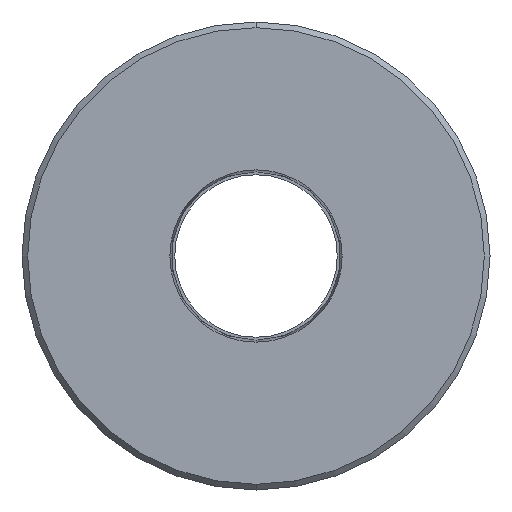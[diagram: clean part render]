
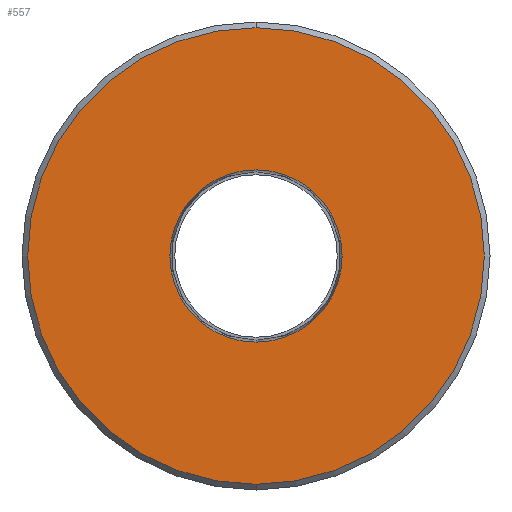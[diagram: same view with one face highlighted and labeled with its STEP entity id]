
A CAD part, front view. The second image highlights one B-rep face of the part: STEP entity #557.
In plain terms, the highlighted planar face has unit normal (0, -1, 0).
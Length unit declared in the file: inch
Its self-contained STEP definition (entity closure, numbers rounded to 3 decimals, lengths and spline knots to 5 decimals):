
#39 = CARTESIAN_POINT ( 'NONE',  ( 0., 0., -0.91114 ) ) ;
#46 = CARTESIAN_POINT ( 'NONE',  ( 0., 0., -2.415 ) ) ;
#59 = CARTESIAN_POINT ( 'NONE',  ( 0., 0., 0. ) ) ;
#73 = DIRECTION ( 'NONE',  ( 0., -1., 0. ) ) ;
#113 = CARTESIAN_POINT ( 'NONE',  ( 0., 0., 2.415 ) ) ;
#131 = CARTESIAN_POINT ( 'NONE',  ( 0., 0., 0. ) ) ;
#137 = DIRECTION ( 'NONE',  ( 0., 0., 1. ) ) ;
#158 = CIRCLE ( 'NONE', #421, 2.415 ) ;
#190 = VERTEX_POINT ( 'NONE', #767 ) ;
#203 = CIRCLE ( 'NONE', #467, 0.91114 ) ;
#235 = CARTESIAN_POINT ( 'NONE',  ( 0., 0., 0. ) ) ;
#236 = VERTEX_POINT ( 'NONE', #39 ) ;
#241 = AXIS2_PLACEMENT_3D ( 'NONE', #677, #268, #751 ) ;
#254 = AXIS2_PLACEMENT_3D ( 'NONE', #59, #533, #137 ) ;
#268 = DIRECTION ( 'NONE',  ( 0., -1., 0. ) ) ;
#295 = DIRECTION ( 'NONE',  ( 0., 0., -1. ) ) ;
#304 = ORIENTED_EDGE ( 'NONE', *, *, #784, .T. ) ;
#412 = VERTEX_POINT ( 'NONE', #113 ) ;
#421 = AXIS2_PLACEMENT_3D ( 'NONE', #617, #73, #546 ) ;
#459 = DIRECTION ( 'NONE',  ( 0., 1., 0. ) ) ;
#467 = AXIS2_PLACEMENT_3D ( 'NONE', #235, #706, #295 ) ;
#495 = CIRCLE ( 'NONE', #254, 2.415 ) ;
#506 = ORIENTED_EDGE ( 'NONE', *, *, #905, .T. ) ;
#507 = AXIS2_PLACEMENT_3D ( 'NONE', #131, #459, #583 ) ;
#533 = DIRECTION ( 'NONE',  ( 0., -1., 0. ) ) ;
#546 = DIRECTION ( 'NONE',  ( 0., 0., 1. ) ) ;
#557 = ADVANCED_FACE ( 'NONE', ( #743, #885 ), #673, .F. ) ;
#583 = DIRECTION ( 'NONE',  ( 0., 0., 1. ) ) ;
#617 = CARTESIAN_POINT ( 'NONE',  ( 0., 0., 0. ) ) ;
#634 = EDGE_LOOP ( 'NONE', ( #506, #304 ) ) ;
#673 = PLANE ( 'NONE',  #507 ) ;
#677 = CARTESIAN_POINT ( 'NONE',  ( 0., 0., 0. ) ) ;
#689 = CIRCLE ( 'NONE', #241, 0.91114 ) ;
#706 = DIRECTION ( 'NONE',  ( 0., -1., 0. ) ) ;
#716 = EDGE_CURVE ( 'NONE', #190, #236, #203, .T. ) ;
#743 = FACE_OUTER_BOUND ( 'NONE', #634, .T. ) ;
#746 = ORIENTED_EDGE ( 'NONE', *, *, #716, .F. ) ;
#751 = DIRECTION ( 'NONE',  ( 0., 0., -1. ) ) ;
#767 = CARTESIAN_POINT ( 'NONE',  ( 0., 0., 0.91114 ) ) ;
#784 = EDGE_CURVE ( 'NONE', #894, #412, #158, .T. ) ;
#824 = ORIENTED_EDGE ( 'NONE', *, *, #909, .F. ) ;
#869 = EDGE_LOOP ( 'NONE', ( #824, #746 ) ) ;
#885 = FACE_BOUND ( 'NONE', #869, .T. ) ;
#894 = VERTEX_POINT ( 'NONE', #46 ) ;
#905 = EDGE_CURVE ( 'NONE', #412, #894, #495, .T. ) ;
#909 = EDGE_CURVE ( 'NONE', #236, #190, #689, .T. ) ;
